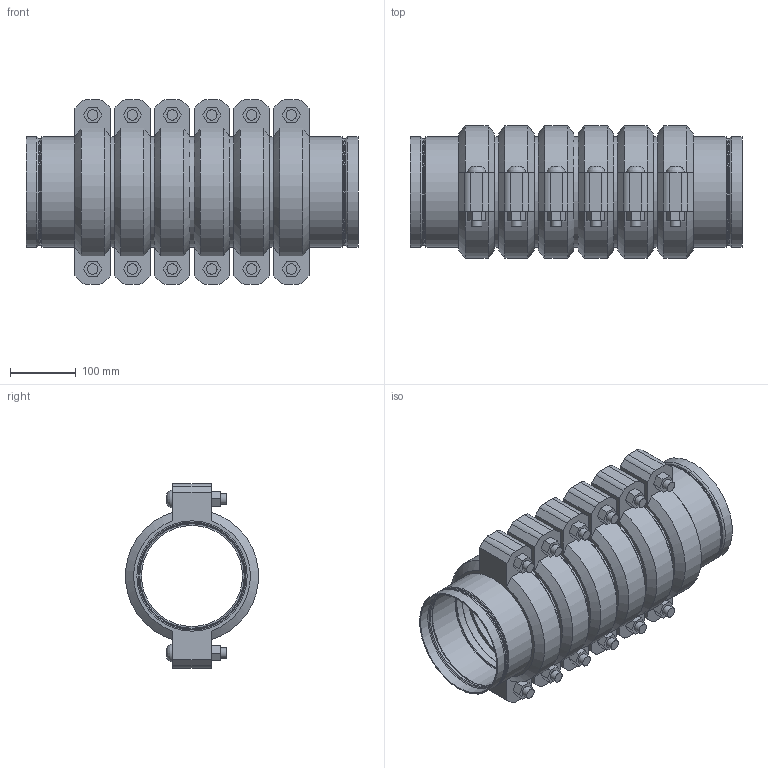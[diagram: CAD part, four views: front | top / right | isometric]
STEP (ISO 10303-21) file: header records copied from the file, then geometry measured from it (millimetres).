
FILE_DESCRIPTION(/* description */ ('VIC STRENGTHIN 100 EXPANSION JOINT 6 COUPLINGS COMPRESSED STYLE E155 (ST1)','CAx-IF Rec.Pracs.---Representation and Presentation of Product Manufacturing Information (PMI)---4.0---2014-10-13'),/* implementation_level */ '2;1');
FILE_NAME(/* name */ 'C:\Users\Vjadhav\AppData\Roaming\Autodesk\ApplicationPlugins\Victaulic.Temp\A634\Victaulic_SS-StrengThin 100_Expansion Joint_Compressed_6 Couplings_Style E155 (ST1)_6 (150).stp',/* time_stamp */ '2021-07-23T12:33:55+05:00',/* author */ ('kkamble'),/* organization */ ('Victaulic'),/* preprocessor_version */ 'ST-DEVELOPER v17.2',/* originating_system */ 'Autodesk Inventor 2019',/* authorisation */ '');
FILE_SCHEMA (('AP242_MANAGED_MODEL_BASED_3D_ENGINEERING_MIM_LF { 1 0 10303 442 1 1 4 }'));
Length unit declared in the file: inch
Products named in the file (4): E155-06.0; E494G-06.0; Nipple-06.0; 075-06.0
Assembly tree (13 placements, depth 2):
  E155-06.0
    E494G-06.0  x2
    Nipple-06.0  x5
    075-06.0  x6
Bounding box: 506.22 x 202.46 x 281.18 mm (x, y, z)
Volume: 5713916.7 mm3; surface area: 1249284.5 mm2
Topology: 13 solids, 25 shells, 446 faces, 1134 edges, 802 vertices
Faces by surface type: plane 246, cylinder 128, torus 32, cone 28, bspline 12
Full cylindrical faces by diameter (mm): 15.875 x24, 17.424 x12, 154.051 x5, 159.258 x2, 159.944 x2, 163.271 x2, 163.957 x12, 164.262 x6, 168.275 x27
Entity records: 3663 total; most frequent: DIRECTION 651, CARTESIAN_POINT 645, ORIENTED_EDGE 536, AXIS2_PLACEMENT_3D 277, EDGE_CURVE 268, VERTEX_POINT 193, CIRCLE 163, EDGE_LOOP 123
